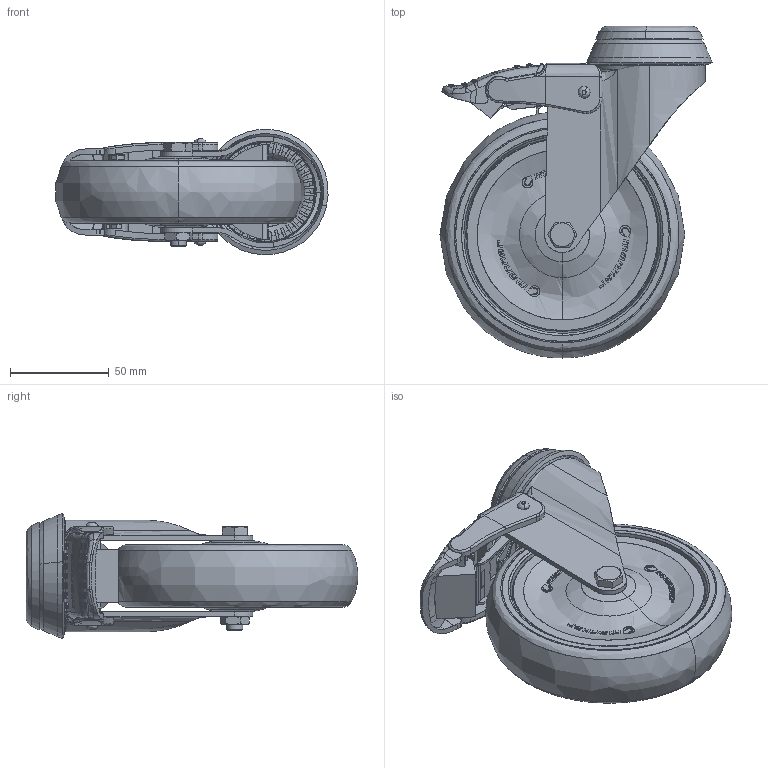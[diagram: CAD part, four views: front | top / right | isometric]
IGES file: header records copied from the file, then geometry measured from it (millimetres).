
Start section: SolidWorks IGES file using analytic representation for surfaces
Global section: file name: S:\Tyokansio\VL\14.2.2012\300884_IGES.IGS; native system: SolidWorks 2011; preprocessor: SolidWorks 2011; author: VilleLa; date: 120228.084552; units: millimetre
Bounding box: 137.53 x 167.77 x 63.32 mm (x, y, z)
Surface area: 129328.2 mm2 (no closed solid volume)
Topology: 0 solids, 0 shells, 1119 faces, 16568 edges, 16553 vertices
Faces by surface type: bspline 855, revolution 264
